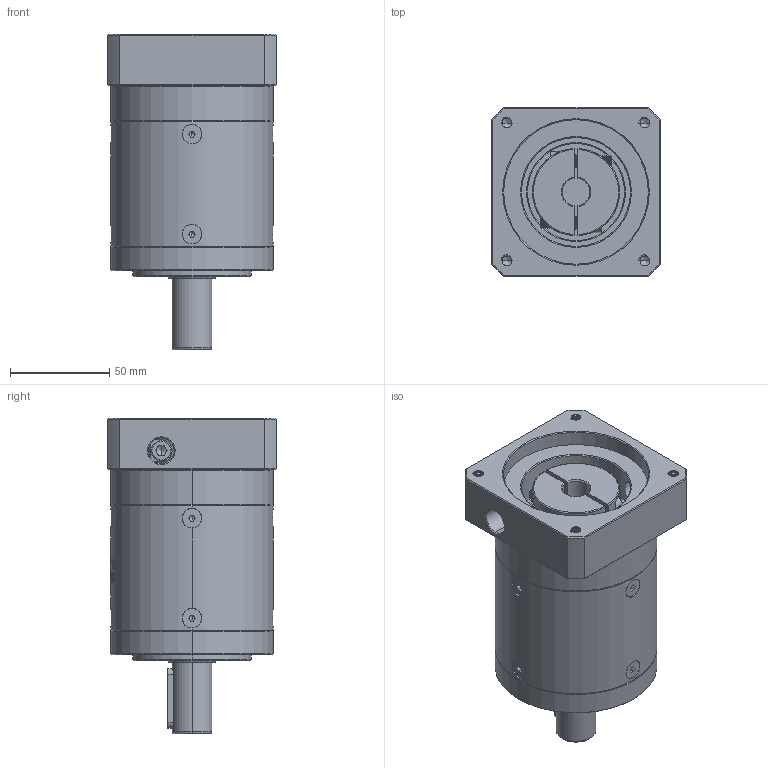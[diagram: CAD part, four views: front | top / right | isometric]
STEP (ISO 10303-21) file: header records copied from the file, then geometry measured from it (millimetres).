
FILE_DESCRIPTION (( 'STEP AP214' ), '1' );
FILE_NAME ('ZE080-D20-L2-P2-14-73-69.6X69.6-M6.step', '2023-08-25T09:38:08', ( '' ), ( '' ), 'SwSTEP 2.0', 'SolidWorks 2016', '' );
FILE_SCHEMA (( 'AUTOMOTIVE_DESIGN' ));
Length unit declared in the file: millimetre
Products named in the file (1): ZE080-D20-L2-P2-14-73-69.6X69.6-M6
Bounding box: 85 x 85 x 159.5 mm (x, y, z)
Volume: 620825.1 mm3; surface area: 89729.1 mm2
Topology: 13 solids, 13 shells, 2225 faces, 5844 edges, 3713 vertices
Faces by surface type: plane 1059, cylinder 407, bspline 397, cone 325, torus 37
Entity records: 121268 total; most frequent: CARTESIAN_POINT 47175, ORIENTED_EDGE 11612, DIRECTION 8527, EDGE_CURVE 5806, VERTEX_POINT 3713, VECTOR 3079, LINE 3079, AXIS2_PLACEMENT_3D 2724
